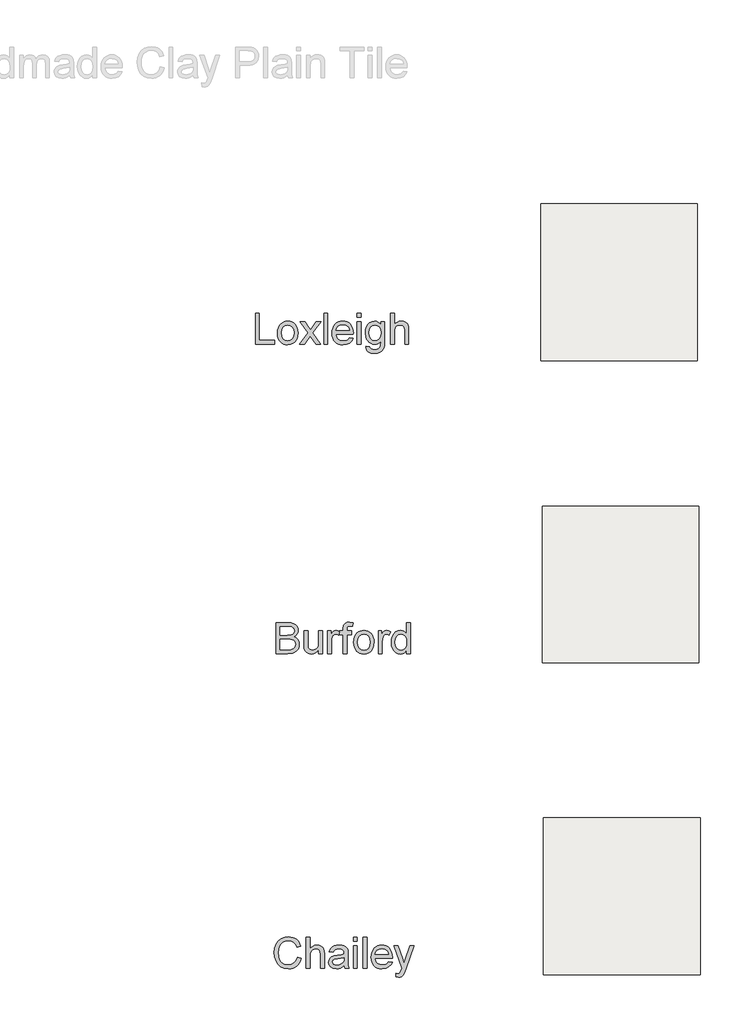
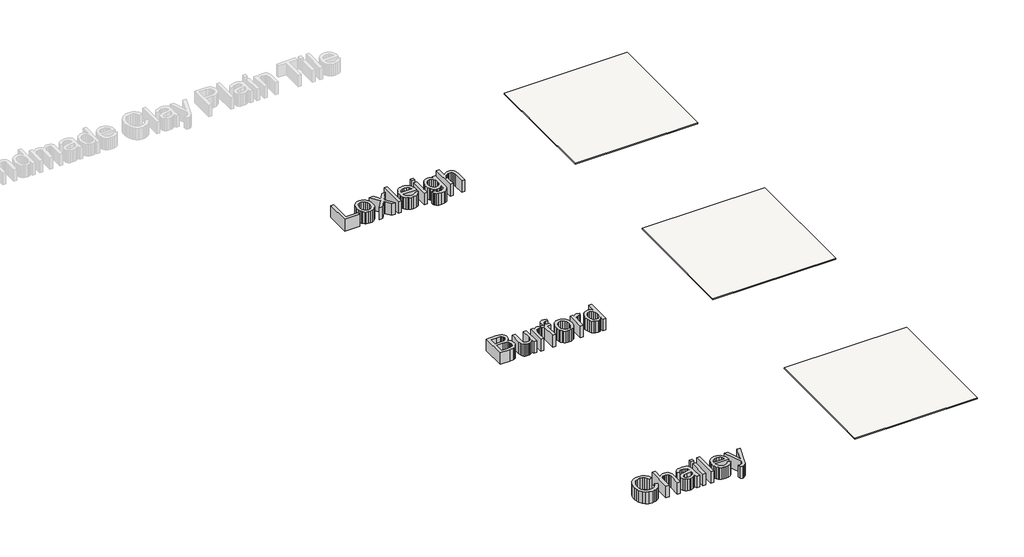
# One storey, part 1 of 3: 3 coverings, 3 proxies.
"""IFC4 building model written with IfcOpenShell, lengths in millimetres."""

import ifcopenshell
import ifcopenshell.guid

model = None  # the IFC model being written
_history = None  # IfcOwnerHistory: only IFC2X3 demands one
_inside = {}  # id of a spatial element -> (the spatial element, [elements in it])
_under = {}  # id of a project, library or spatial element -> (it, [spatial elements below it])
_declared = {}  # id of a project -> (the project, [libraries it declares])
_typed = {}  # id of a type object -> (the type object, [elements of that type])
_made_of = {}  # id of a material, layer set ... -> (it, [elements and type objects made of it])


def new_model(schema):
    """Start an empty IFC model of exactly this schema.

    Asked for "IFC4X3", IfcOpenShell would pick the latest addendum, in which some entities
    have other attributes; the version numbers below select the first issue.
    IFC2X3 requires an IfcOwnerHistory on every rooted entity: one is made here for all.
    """
    global model, _history
    if schema == "IFC4X3":
        model = ifcopenshell.file(schema_version=(4, 3, 0, 0))
    else:
        model = ifcopenshell.file(schema=schema)
    _inside.clear()
    _under.clear()
    _declared.clear()
    _typed.clear()
    _made_of.clear()
    _history = None
    if model.schema == "IFC2X3":
        org = make("IfcOrganization", Name="unknown")
        user = make(
            "IfcPersonAndOrganization",
            ThePerson=make("IfcPerson", FamilyName="unknown"),
            TheOrganization=org,
        )
        app = make(
            "IfcApplication",
            ApplicationDeveloper=org,
            Version="unknown",
            ApplicationFullName="unknown",
            ApplicationIdentifier="unknown",
        )
        _history = make(
            "IfcOwnerHistory",
            OwningUser=user,
            OwningApplication=app,
            ChangeAction="ADDED",
            CreationDate=0,
        )
    return model


def make(cls, **values):
    """One entity of the class cls with the attributes given. An attribute that is None is left unset."""
    return model.create_entity(
        cls, **{name: value for name, value in values.items() if value is not None}
    )


def rooted(cls, **values):
    """An entity with a GlobalId (a new one), such as an element, a storey or a relation."""
    return make(cls, GlobalId=ifcopenshell.guid.new(), OwnerHistory=_history, **values)


def si_unit(unit_type, name, prefix=None):
    """IfcSIUnit, for example si_unit("LENGTHUNIT", "METRE", prefix="MILLI")."""
    return make("IfcSIUnit", UnitType=unit_type, Prefix=prefix, Name=name)


def assignment(units):
    """IfcUnitAssignment: the units of a project."""
    return None if units is None else make("IfcUnitAssignment", Units=units)


def point(xyz):
    """IfcCartesianPoint."""
    return None if xyz is None else make("IfcCartesianPoint", Coordinates=xyz)


def direction(xyz):
    """IfcDirection."""
    return None if xyz is None else make("IfcDirection", DirectionRatios=xyz)


def frame(location, z_axis=None, x_axis=None):
    """IfcAxis2Placement3D, a coordinate frame: its origin and axes. An axis left out is left unset."""
    return make(
        "IfcAxis2Placement3D",
        Location=point(location),
        Axis=direction(z_axis),
        RefDirection=direction(x_axis),
    )


def origin():
    """The frame at (0, 0, 0) with its axes left unset."""
    return frame((0.0, 0.0, 0.0))


def place(relative_to, where):
    """IfcLocalPlacement: puts the frame where relative to a parent placement (None: the world)."""
    return make(
        "IfcLocalPlacement", PlacementRelTo=relative_to, RelativePlacement=where
    )


def context(
    kind, dimensions, precision=None, world=None, true_north=None, identifier=None
):
    """IfcGeometricRepresentationContext, for example the 3D "Model" context."""
    return make(
        "IfcGeometricRepresentationContext",
        ContextIdentifier=identifier,
        ContextType=kind,
        CoordinateSpaceDimension=dimensions,
        Precision=precision,
        WorldCoordinateSystem=world,
        TrueNorth=true_north,
    )


def project(units=None, contexts=None):
    """IfcProject with its units and contexts."""
    return rooted(
        "IfcProject",
        Name="project",
        RepresentationContexts=contexts,
        UnitsInContext=assignment(units),
    )


def spatial(cls, under=None, at=None, **own):
    """A site, building, storey or space (cls), placed at a placement, below another one or the project."""
    s = rooted(cls, ObjectPlacement=at, **own)
    if under is not None:
        _under.setdefault(under.id(), (under, []))[1].append(s)
    return s


def polyline(points):
    """IfcPolyline through the points."""
    return make("IfcPolyline", Points=[point(p) for p in points])


def outline(outer, holes=None, kind="AREA"):
    """IfcArbitraryClosedProfileDef: a profile drawn as a closed curve; with holes, ...WithVoids."""
    if holes is None:
        return make("IfcArbitraryClosedProfileDef", ProfileType=kind, OuterCurve=outer)
    return make(
        "IfcArbitraryProfileDefWithVoids",
        ProfileType=kind,
        OuterCurve=outer,
        InnerCurves=holes,
    )


def extrude(swept, where, along, depth):
    """IfcExtrudedAreaSolid: the profile swept, set in the frame where, extruded along a direction by depth."""
    return make(
        "IfcExtrudedAreaSolid",
        SweptArea=swept,
        Position=where,
        ExtrudedDirection=direction(along),
        Depth=depth,
    )


def shape(context_of_items, identifier, shape_type, items):
    """IfcShapeRepresentation: the items that make up one representation, for example the "Body"."""
    return make(
        "IfcShapeRepresentation",
        ContextOfItems=context_of_items,
        RepresentationIdentifier=identifier,
        RepresentationType=shape_type,
        Items=items,
    )


def made_of(thing, what):
    """Note that an element or type object is made of a material, layer set ...; save() writes the relation."""
    if what is not None:
        _made_of.setdefault(what.id(), (what, []))[1].append(thing)
    return thing


def element(
    cls,
    number,
    at=None,
    inside=None,
    cuts=None,
    type_object=None,
    material=None,
    context=None,
    identifier="Body",
    shape_type=None,
    held_by="IfcProductDefinitionShape",
    body=None,
    shapes=None,
    **own,
):
    """One element of the class cls, such as IfcWall. Its Tag is "e" and its number.

    at: its placement. inside: the storey or other place that contains it. cuts: it is an
    opening in that element (IfcRelVoidsElement). A single representation is given by context,
    identifier, shape_type and body (its items); several are given by shapes. held_by: the class
    of the entity that holds the representations. save() writes the other relations.
    """
    e = rooted(cls, Tag="e%d" % number, ObjectPlacement=at, **own)
    if body is not None:
        shapes = [shape(context, identifier, shape_type, body)]
    if shapes is not None:
        e.Representation = make(held_by, Representations=shapes)
    if inside is not None:
        _inside.setdefault(inside.id(), (inside, []))[1].append(e)
    if cuts is not None:
        rooted(
            "IfcRelVoidsElement", RelatingBuildingElement=cuts, RelatedOpeningElement=e
        )
    if type_object is not None:
        _typed.setdefault(type_object.id(), (type_object, []))[1].append(e)
    return made_of(e, material)


def aggregate(whole, parts):
    """IfcRelAggregates: a whole, such as a stair, and the parts it consists of."""
    return rooted("IfcRelAggregates", RelatingObject=whole, RelatedObjects=parts)


def save(model, path):
    """Write the relations noted so far, then the file.

    IfcRelAggregates (storeys below a building ...), IfcRelContainedInSpatialStructure (elements
    in a storey), IfcRelDefinesByType, IfcRelAssociatesMaterial and IfcRelDeclares: one each for
    every whole, place, type object, material and project.
    """
    for whole, parts in _under.values():
        aggregate(whole, parts)
    for where, things in _inside.values():
        rooted(
            "IfcRelContainedInSpatialStructure",
            RelatedElements=things,
            RelatingStructure=where,
        )
    for kind, things in _typed.values():
        rooted("IfcRelDefinesByType", RelatedObjects=things, RelatingType=kind)
    for what, things in _made_of.values():
        rooted("IfcRelAssociatesMaterial", RelatedObjects=things, RelatingMaterial=what)
    for by, libraries in _declared.values():
        rooted("IfcRelDeclares", RelatingContext=by, RelatedDefinitions=libraries)
    model.write(path)


model = new_model("IFC4")

# Units and contexts
model_context = context("Model", 3, world=origin())
ifc_project = project(units=[si_unit("LENGTHUNIT", "METRE", prefix="MILLI")], contexts=[model_context])

# Site, building, storey
site = spatial("IfcSite", under=ifc_project)
building = spatial("IfcBuilding", under=site)
storey = spatial("IfcBuildingStorey", under=building, Name="Marley Clay Plain Tile", Elevation=3000.0)

# Proxies
placement = place(None, origin())
element("IfcBuildingElementProxy", 1, Name="600mm Arial", ObjectType="600mm Arial", at=placement, inside=storey, context=model_context, shape_type="SweptSolid", body=[
    extrude(outline(polyline([(-13375.9050544, 48.5662528), (-13375.9050544, 343.9508682), (-13263.1887083, 343.9508682), (-13232.1881073, 341.7783922), (-13207.9843813, 335.2609643), (-13189.4326986, 324.2363249), (-13175.3882275, 308.5422143), (-13166.5450785, 290.0806759), (-13163.5973621, 270.7537528), (-13166.0763285, 252.9682961), (-13173.5132275, 236.2465413), (-13185.9621458, 221.6161326), (-13203.4771698, 210.1047143), (-13182.5546938, 199.1792336), (-13167.0949583, 182.5566374), (-13157.5486842, 161.3366855), (-13154.3665929, 136.6191374), (-13156.5390688, 116.0211807), (-13163.0564967, 96.9196182), (-13172.7830592, 80.6756278), (-13184.582939, 68.6503874), (-13199.0330592, 59.9424547), (-13216.7103429, 53.6503874), (-13264.0540929, 48.5662528), (-13375.9050544, 48.5662528)]), holes=[polyline([(-13338.9819775, 85.4893297), (-13263.2608236, 85.4893297), (-13235.8569775, 86.9316374), (-13212.6718813, 94.9725028), (-13197.3113044, 111.3787528), (-13192.7950785, 122.9713009), (-13191.2896698, 136.2585605), (-13193.0564967, 151.6912528), (-13198.3569775, 164.9604836), (-13207.61479, 175.3360845), (-13221.2536121, 182.0878874), (-13240.5715208, 185.7928153), (-13266.8665929, 187.0277913), (-13338.9819775, 187.0277913), (-13338.9819775, 85.4893297)]), polyline([(-13338.9819775, 223.9508682), (-13271.5540929, 223.9508682), (-13232.1790929, 227.1239451), (-13218.39604, 232.5956999), (-13208.489189, 240.7898105), (-13202.5126265, 251.5800749), (-13200.520439, 264.8402913), (-13202.3774102, 277.7128874), (-13207.9483236, 288.9268297), (-13216.9807756, 297.6798345), (-13229.2223621, 303.1696182), (-13276.6742852, 307.0277913), (-13338.9819775, 307.0277913), (-13338.9819775, 223.9508682)])]), frame((0.0, 0.0, 3000.0), z_axis=(0.0, 0.0, 1.0), x_axis=(1.0, 0.0, 0.0)), (0.0, 0.0, 1.0), 150.0),
    extrude(outline(polyline([(-12969.7512083, 48.5662528), (-12969.7512083, 85.8499066), (-12983.1105833, 67.5190773), (-12998.6694775, 54.4256278), (-13016.427891, 46.5695581), (-13036.3858236, 43.9508682), (-13054.3695977, 45.7898105), (-13071.1093813, 51.3066374), (-13085.1538525, 59.5999066), (-13095.051689, 69.7681759), (-13106.0492852, 96.9556759), (-13108.2127467, 131.282599), (-13108.2127467, 265.4893297), (-13071.2896698, 265.4893297), (-13071.2896698, 148.6624066), (-13069.0540929, 111.0181759), (-13063.6724823, 98.4610845), (-13054.4507275, 88.9148105), (-13042.0018092, 82.8841615), (-13026.9387083, 80.8739451), (-13011.0102227, 82.9292336), (-12996.1093813, 89.095099), (-12983.8227227, 98.8036326), (-12975.7367852, 111.4869259), (-12971.2476025, 128.8577191), (-12969.7512083, 152.6287528), (-12969.7512083, 265.4893297), (-12932.8281313, 265.4893297), (-12932.8281313, 48.5662528), (-12969.7512083, 48.5662528)])), frame((0.0, 0.0, 3000.0), z_axis=(0.0, 0.0, 1.0), x_axis=(1.0, 0.0, 0.0)), (0.0, 0.0, 1.0), 150.0),
    extrude(outline(polyline([(-12882.0589006, 48.5662528), (-12882.0589006, 265.4893297), (-12849.7512083, 265.4893297), (-12849.7512083, 233.3979836), (-12837.8161121, 252.0037528), (-12826.818516, 262.9652913), (-12815.7848621, 268.3198586), (-12803.7415929, 270.1047143), (-12785.3521698, 267.2561566), (-12766.6742852, 258.7104836), (-12779.006016, 225.609522), (-12791.9867852, 231.2886086), (-12804.9675544, 233.1816374), (-12815.9921938, 231.360724), (-12825.8449583, 225.8979836), (-12833.8046938, 217.2080797), (-12839.1502467, 205.7056759), (-12843.6394294, 185.0806759), (-12845.1358236, 162.5806759), (-12845.1358236, 48.5662528), (-12882.0589006, 48.5662528)])), frame((0.0, 0.0, 3000.0), z_axis=(0.0, 0.0, 1.0), x_axis=(1.0, 0.0, 0.0)), (0.0, 0.0, 1.0), 150.0),
    extrude(outline(polyline([(-12734.3665929, 48.5662528), (-12734.3665929, 228.5662528), (-12766.6742852, 228.5662528), (-12766.6742852, 265.4893297), (-12734.3665929, 265.4893297), (-12734.3665929, 287.3402913), (-12730.4723621, 318.1335605), (-12723.0444775, 330.4112047), (-12711.5781313, 340.1287528), (-12695.5324583, 346.4568778), (-12674.3665929, 348.5662528), (-12640.6887083, 344.5277913), (-12646.0973621, 309.9124066), (-12667.3714006, 311.6431759), (-12681.4068573, 310.110724), (-12690.6286121, 305.5133682), (-12695.73979, 296.7333201), (-12697.443516, 282.6527913), (-12697.443516, 265.4893297), (-12655.9050544, 265.4893297), (-12655.9050544, 228.5662528), (-12697.443516, 228.5662528), (-12697.443516, 48.5662528), (-12734.3665929, 48.5662528)])), frame((0.0, 0.0, 3000.0), z_axis=(0.0, 0.0, 1.0), x_axis=(1.0, 0.0, 0.0)), (0.0, 0.0, 1.0), 150.0),
    extrude(outline(polyline([(-12632.8281313, 157.0277913), (-12630.8314366, 185.1212408), (-12624.8413525, 209.329474), (-12614.8578789, 229.6524908), (-12600.881016, 246.0902913), (-12586.8095015, 256.5966014), (-12571.2776506, 264.1011086), (-12554.2854631, 268.6038129), (-12535.832939, 270.1047143), (-12515.4625965, 268.2770401), (-12497.0438765, 262.7940172), (-12480.5767792, 253.6556458), (-12466.0613044, 240.8619259), (-12454.2140989, 224.8455497), (-12445.7518092, 206.0392095), (-12440.6744354, 184.4429054), (-12438.9819775, 160.0566374), (-12441.974766, 122.7549547), (-12450.9531313, 94.359522), (-12465.6556554, 73.094498), (-12485.8209198, 57.1840413), (-12509.7722419, 47.2591615), (-12535.832939, 43.9508682), (-12556.5007575, 45.7717816), (-12575.0907515, 51.234522), (-12591.602921, 60.3390893), (-12606.037266, 73.0854836), (-12617.7582696, 89.2573586), (-12626.130415, 108.6383682), (-12631.1537022, 131.2285124), (-12632.8281313, 157.0277913)]), holes=[polyline([(-12595.9050544, 157.0999066), (-12591.6322179, 123.6834403), (-12578.8137083, 99.876349), (-12559.5228429, 85.6245461), (-12535.832939, 80.8739451), (-12512.2512083, 85.6515893), (-12492.9964006, 99.984522), (-12480.177891, 124.1071182), (-12475.9050544, 158.2537528), (-12480.2049342, 190.6966615), (-12493.1045736, 214.1792336), (-12512.3864246, 228.4310365), (-12535.832939, 233.1816374), (-12559.5228429, 228.4490653), (-12578.8137083, 214.251349), (-12591.6322179, 190.4983441), (-12595.9050544, 157.0999066)])]), frame((0.0, 0.0, 3000.0), z_axis=(0.0, 0.0, 1.0), x_axis=(1.0, 0.0, 0.0)), (0.0, 0.0, 1.0), 150.0),
    extrude(outline(polyline([(-12397.443516, 48.5662528), (-12397.443516, 265.4893297), (-12365.1358236, 265.4893297), (-12365.1358236, 233.3979836), (-12353.2007275, 252.0037528), (-12342.2031313, 262.9652913), (-12331.1694775, 268.3198586), (-12319.1262083, 270.1047143), (-12300.7367852, 267.2561566), (-12282.0589006, 258.7104836), (-12294.3906313, 225.609522), (-12307.3714006, 231.2886086), (-12320.3521698, 233.1816374), (-12331.3768092, 231.360724), (-12341.2295736, 225.8979836), (-12349.1893092, 217.2080797), (-12354.5348621, 205.7056759), (-12359.0240448, 185.0806759), (-12360.520439, 162.5806759), (-12360.520439, 48.5662528), (-12397.443516, 48.5662528)])), frame((0.0, 0.0, 3000.0), z_axis=(0.0, 0.0, 1.0), x_axis=(1.0, 0.0, 0.0)), (0.0, 0.0, 1.0), 150.0),
    extrude(outline(polyline([(-12125.1358236, 48.5662528), (-12125.1358236, 83.3979836), (-12136.1829991, 66.1398706), (-12149.5649102, 53.812647), (-12165.2815568, 46.4163129), (-12183.332939, 43.9508682), (-12207.2031313, 47.5205797), (-12229.0540929, 58.2297143), (-12247.551689, 75.3300749), (-12261.3617852, 98.0734643), (-12269.9615448, 125.5404115), (-12272.8281313, 156.8114451), (-12270.1869054, 187.6948586), (-12262.2632275, 215.5854836), (-12249.0661121, 238.8967816), (-12230.6045736, 256.0422143), (-12208.2758477, 266.5890893), (-12183.4771698, 270.1047143), (-12165.412266, 267.5896903), (-12149.4387083, 260.0446182), (-12135.8990448, 248.4791134), (-12125.1358236, 233.9027913), (-12125.1358236, 343.9508682), (-12088.2127467, 343.9508682), (-12088.2127467, 48.5662528), (-12125.1358236, 48.5662528)]), holes=[polyline([(-12235.9050544, 156.9556759), (-12231.740391, 123.5572384), (-12219.2464006, 99.8042336), (-12201.0913525, 85.6065172), (-12179.943516, 80.8739451), (-12158.8046938, 85.3901711), (-12141.1093813, 98.938849), (-12129.1292131, 121.7723826), (-12125.1358236, 154.1431759), (-12129.2013285, 189.5338009), (-12141.3978429, 214.0710605), (-12159.5438765, 228.4039932), (-12181.457939, 233.1816374), (-12202.8221217, 228.5932961), (-12220.3281313, 214.828272), (-12232.0108236, 191.1834403), (-12235.9050544, 156.9556759)])]), frame((0.0, 0.0, 3000.0), z_axis=(0.0, 0.0, 1.0), x_axis=(1.0, 0.0, 0.0)), (0.0, 0.0, 1.0), 150.0),
])
element("IfcBuildingElementProxy", 2, Name="600mm Arial", ObjectType="600mm Arial", at=placement, inside=storey, context=model_context, shape_type="SweptSolid", body=[
    extrude(outline(polyline([(-13171.7794103, -2857.4153802), (-13134.8563334, -2866.934611), (-13142.1625233, -2889.8966001), (-13151.893593, -2909.9604523), (-13164.0495425, -2927.1261674), (-13178.6303718, -2941.3937456), (-13195.3070545, -2952.6099415), (-13213.7505642, -2960.62151), (-13233.9609007, -2965.4284511), (-13255.9380642, -2967.0307648), (-13298.7655882, -2962.1810052), (-13332.7770065, -2947.6317263), (-13358.846718, -2923.887736), (-13377.8491218, -2891.4538417), (-13389.4506843, -2853.3228321), (-13393.3178718, -2812.4874956), (-13388.9458767, -2769.4165821), (-13375.8298911, -2732.2230725), (-13354.6550113, -2702.0878561), (-13326.1063334, -2680.1918225), (-13292.2481603, -2666.8594908), (-13255.1447949, -2662.4153802), (-13214.6610209, -2668.1665821), (-13197.0490918, -2675.3555845), (-13181.190468, -2685.4201879), (-13167.3465678, -2698.0944667), (-13155.7788093, -2713.1124956), (-13139.471718, -2750.1798033), (-13176.3947949, -2758.9778802), (-13189.1952757, -2732.0517985), (-13206.6832565, -2713.5812456), (-13229.0750834, -2702.8991542), (-13256.5871026, -2699.3384571), (-13288.299843, -2703.2867744), (-13314.3515257, -2715.1317263), (-13334.1201555, -2733.6293225), (-13346.9837372, -2757.5355725), (-13354.0420305, -2784.5608129), (-13356.3947949, -2812.4153802), (-13353.6093382, -2846.5259571), (-13345.252968, -2876.0211494), (-13331.0101795, -2899.7741542), (-13310.565468, -2916.6581686), (-13286.0552517, -2926.7453081), (-13259.6159488, -2930.1076879), (-13228.7956363, -2925.528361), (-13203.1135449, -2911.7903802), (-13183.7235209, -2889.0379763), (-13171.7794103, -2857.4153802)])), frame((0.0, 0.0, 3000.0), z_axis=(0.0, 0.0, 1.0), x_axis=(1.0, 0.0, 0.0)), (0.0, 0.0, 1.0), 150.0),
    extrude(outline(polyline([(-13088.7024872, -2962.4153802), (-13088.7024872, -2667.0307648), (-13051.7794103, -2667.0307648), (-13051.7794103, -2775.636534), (-13038.2172108, -2760.4292023), (-13022.987343, -2749.5668225), (-13006.0898069, -2743.0493946), (-12987.5246026, -2740.8769186), (-12965.2229199, -2743.2477119), (-12946.0582565, -2750.3600917), (-12930.9681122, -2761.6551638), (-12920.8899872, -2776.574034), (-12915.2109007, -2797.0728321), (-12913.3178718, -2825.1076879), (-12913.3178718, -2962.4153802), (-12950.2409488, -2962.4153802), (-12950.2409488, -2828.9298033), (-12953.1796507, -2805.8168225), (-12961.9957565, -2789.9874956), (-12976.2024872, -2780.8468706), (-12995.3130642, -2777.7999956), (-13010.9170305, -2779.855284), (-13025.565468, -2786.0211494), (-13037.6988815, -2795.7026398), (-13045.7577757, -2808.3048033), (-13050.2740017, -2825.0536013), (-13051.7794103, -2847.1749956), (-13051.7794103, -2962.4153802), (-13088.7024872, -2962.4153802)])), frame((0.0, 0.0, 3000.0), z_axis=(0.0, 0.0, 1.0), x_axis=(1.0, 0.0, 0.0)), (0.0, 0.0, 1.0), 150.0),
    extrude(outline(polyline([(-12724.0871026, -2934.7230725), (-12741.7283286, -2949.8492744), (-12759.8923911, -2959.747111), (-12778.9939536, -2965.2098513), (-12799.4476795, -2967.0307648), (-12830.3040497, -2962.6497552), (-12853.065468, -2949.5067263), (-12867.1009247, -2929.5487936), (-12871.7794103, -2904.7230725), (-12870.0125834, -2889.4165821), (-12864.7121026, -2875.5163417), (-12856.5360209, -2863.6173033), (-12846.1423911, -2854.3144186), (-12820.2890257, -2842.199034), (-12788.3419103, -2836.6461494), (-12750.5895065, -2830.8048033), (-12724.3034488, -2823.9538417), (-12724.0871026, -2815.7326879), (-12726.6291699, -2799.2543225), (-12734.2553718, -2788.4730725), (-12751.3106603, -2780.4682648), (-12775.0726795, -2777.7999956), (-12797.0678718, -2779.5758369), (-12812.4284488, -2784.903361), (-12822.9032084, -2794.7561254), (-12830.2409488, -2810.1076879), (-12867.1640257, -2805.4923033), (-12860.7547709, -2785.2999956), (-12851.190468, -2769.434611), (-12837.5786892, -2757.3011975), (-12819.0270065, -2748.3048033), (-12796.3377036, -2742.7338898), (-12770.3130642, -2740.8769186), (-12745.3521267, -2742.5175436), (-12725.565468, -2747.4394186), (-12710.6465978, -2754.84026), (-12700.2890257, -2763.917784), (-12693.4200353, -2775.1407408), (-12688.9669103, -2788.9778802), (-12687.1640257, -2821.2855725), (-12687.1640257, -2867.2230725), (-12685.2890257, -2931.3697071), (-12677.9332565, -2962.4153802), (-12714.8563334, -2962.4153802), (-12724.0871026, -2934.7230725)]), holes=[polyline([(-12724.0871026, -2860.8769186), (-12783.6544103, -2872.199034), (-12815.4212372, -2878.184611), (-12829.8082565, -2887.9201879), (-12834.8563334, -2902.1269186), (-12832.1069343, -2913.106486), (-12823.8587372, -2922.1028802), (-12810.2920305, -2928.106486), (-12791.5871026, -2930.1076879), (-12771.7553718, -2927.8991542), (-12754.2313334, -2921.2735533), (-12740.0246026, -2911.5109331), (-12730.1447949, -2899.8913417), (-12725.7637853, -2887.9201879), (-12724.3034488, -2871.3336494), (-12724.0871026, -2860.8769186)])]), frame((0.0, 0.0, 3000.0), z_axis=(0.0, 0.0, 1.0), x_axis=(1.0, 0.0, 0.0)), (0.0, 0.0, 1.0), 150.0),
    extrude(outline(polyline([(-12636.3947949, -2703.9538417), (-12636.3947949, -2667.0307648), (-12599.471718, -2667.0307648), (-12599.471718, -2703.9538417), (-12636.3947949, -2703.9538417)])), frame((0.0, 0.0, 3000.0), z_axis=(0.0, 0.0, 1.0), x_axis=(1.0, 0.0, 0.0)), (0.0, 0.0, 1.0), 150.0),
    extrude(outline(polyline([(-12636.3947949, -2962.4153802), (-12636.3947949, -2745.4923033), (-12599.471718, -2745.4923033), (-12599.471718, -2962.4153802), (-12636.3947949, -2962.4153802)])), frame((0.0, 0.0, 3000.0), z_axis=(0.0, 0.0, 1.0), x_axis=(1.0, 0.0, 0.0)), (0.0, 0.0, 1.0), 150.0),
    extrude(outline(polyline([(-12544.0871026, -2962.4153802), (-12544.0871026, -2667.0307648), (-12507.1640257, -2667.0307648), (-12507.1640257, -2962.4153802), (-12544.0871026, -2962.4153802)])), frame((0.0, 0.0, 3000.0), z_axis=(0.0, 0.0, 1.0), x_axis=(1.0, 0.0, 0.0)), (0.0, 0.0, 1.0), 150.0),
    extrude(outline(polyline([(-12299.9044103, -2897.7999956), (-12263.7024872, -2902.4153802), (-12276.7463574, -2929.6930244), (-12297.5606603, -2950.0836494), (-12325.6766459, -2962.793986), (-12360.6255642, -2967.0307648), (-12383.5357204, -2965.2030905), (-12403.9488815, -2959.7200677), (-12421.8650473, -2950.5816963), (-12437.284218, -2937.7879763), (-12449.6835569, -2921.6949775), (-12458.5402276, -2902.6587696), (-12463.85423, -2880.6793525), (-12465.6255642, -2855.7567263), (-12463.8362012, -2829.988998), (-12458.4681122, -2807.277159), (-12449.5212973, -2787.6212095), (-12436.9957565, -2771.0211494), (-12421.6171507, -2757.8330485), (-12404.1111411, -2748.4129763), (-12384.4777276, -2742.7609331), (-12362.7169103, -2740.8769186), (-12341.6569644, -2742.7564259), (-12322.611742, -2748.3949475), (-12305.5812432, -2757.7924835), (-12290.565468, -2770.949034), (-12278.3081062, -2787.5130364), (-12269.5528478, -2807.1329283), (-12264.2996928, -2829.8087095), (-12262.5486411, -2855.5403802), (-12262.7649872, -2865.4923033), (-12428.7024872, -2865.4923033), (-12422.3112613, -2893.1305244), (-12407.4645065, -2913.449034), (-12386.0372228, -2925.9430244), (-12359.9044103, -2930.1076879), (-12340.252968, -2928.1786013), (-12323.7024872, -2922.3913417), (-12310.252968, -2912.3853321), (-12299.9044103, -2897.7999956)]), holes=[polyline([(-12428.7024872, -2828.5692263), (-12299.471718, -2828.5692263), (-12304.4657084, -2809.0620148), (-12314.2553718, -2795.1076879), (-12335.7818142, -2782.1269186), (-12362.8611411, -2777.7999956), (-12387.7499632, -2781.2525196), (-12408.3298911, -2791.6100917), (-12422.6357805, -2807.7549235), (-12428.7024872, -2828.5692263)])]), frame((0.0, 0.0, 3000.0), z_axis=(0.0, 0.0, 1.0), x_axis=(1.0, 0.0, 0.0)), (0.0, 0.0, 1.0), 150.0),
    extrude(outline(polyline([(-12225.6255642, -3045.4923033), (-12230.2409488, -3009.9394186), (-12211.4909488, -3013.184611), (-12193.9669103, -3009.1100917), (-12183.221718, -2997.7519186), (-12173.1255642, -2970.5644186), (-12170.2409488, -2961.622111), (-12248.7024872, -2745.4923033), (-12209.7601795, -2745.4923033), (-12168.1496026, -2865.9249956), (-12153.6544103, -2914.0980725), (-12139.159218, -2871.5499956), (-12096.3947949, -2745.4923033), (-12057.7409488, -2745.4923033), (-12133.2457565, -2967.6076879), (-12152.8611411, -3015.7807648), (-12162.9032084, -3031.1593706), (-12174.2794103, -3041.8144186), (-12187.4945545, -3048.0343706), (-12203.0534488, -3050.1076879), (-12225.6255642, -3045.4923033)])), frame((0.0, 0.0, 3000.0), z_axis=(0.0, 0.0, 1.0), x_axis=(1.0, 0.0, 0.0)), (0.0, 0.0, 1.0), 150.0),
])
element("IfcBuildingElementProxy", 3, Name="600mm Arial", ObjectType="600mm Arial", at=placement, inside=storey, context=model_context, shape_type="SweptSolid", body=[
    extrude(outline(polyline([(-13573.7803585, 3007.26644), (-13573.7803585, 3302.6510554), (-13536.8572816, 3302.6510554), (-13536.8572816, 3044.189517), (-13389.1649739, 3044.189517), (-13389.1649739, 3007.26644), (-13573.7803585, 3007.26644)])), frame((0.0, 0.0, 3000.0), z_axis=(0.0, 0.0, 1.0), x_axis=(1.0, 0.0, 0.0)), (0.0, 0.0, 1.0), 150.0),
    extrude(outline(polyline([(-13361.4726662, 3115.7279785), (-13359.4759715, 3143.821428), (-13353.4858873, 3168.0296612), (-13343.5024138, 3188.352678), (-13329.5255508, 3204.7904785), (-13315.4540364, 3215.2967886), (-13299.9221854, 3222.8012958), (-13282.9299979, 3227.3040001), (-13264.4774739, 3228.8049016), (-13244.1071313, 3226.9772273), (-13225.6884114, 3221.4942045), (-13209.221314, 3212.3558331), (-13194.7058393, 3199.5621131), (-13182.8586337, 3183.5457369), (-13174.3963441, 3164.7393968), (-13169.3189703, 3143.1430927), (-13167.6265123, 3118.7568247), (-13170.6193008, 3081.455142), (-13179.5976662, 3053.0597093), (-13194.3001902, 3031.7946852), (-13214.4654547, 3015.8842285), (-13238.4167768, 3005.9593487), (-13264.4774739, 3002.6510554), (-13285.1452924, 3004.4719689), (-13303.7352864, 3009.9347093), (-13320.2474559, 3019.0392766), (-13334.6818008, 3031.7856708), (-13346.4028044, 3047.9575458), (-13354.7749498, 3067.3385554), (-13359.7982371, 3089.9286997), (-13361.4726662, 3115.7279785)]), holes=[polyline([(-13324.5495893, 3115.8000939), (-13320.2767527, 3082.3836275), (-13307.4582431, 3058.5765362), (-13288.1673777, 3044.3247333), (-13264.4774739, 3039.5741324), (-13240.8957431, 3044.3517766), (-13221.6409354, 3058.6847093), (-13208.8224258, 3082.8073054), (-13204.5495893, 3116.95394), (-13208.8494691, 3149.3968487), (-13221.7491085, 3172.8794208), (-13241.0309595, 3187.1312237), (-13264.4774739, 3191.8818247), (-13288.1673777, 3187.1492525), (-13307.4582431, 3172.9515362), (-13320.2767527, 3149.1985314), (-13324.5495893, 3115.8000939)])]), frame((0.0, 0.0, 3000.0), z_axis=(0.0, 0.0, 1.0), x_axis=(1.0, 0.0, 0.0)), (0.0, 0.0, 1.0), 150.0),
    extrude(outline(polyline([(-13149.1649739, 3007.26644), (-13070.2707431, 3116.3049016), (-13144.5495893, 3224.189517), (-13100.1265123, 3224.189517), (-13064.2851662, 3172.26644), (-13047.554397, 3147.7472093), (-13033.0592047, 3167.7952862), (-12992.241897, 3224.189517), (-12947.81882, 3224.189517), (-13025.8476662, 3116.3049016), (-12950.7034354, 3007.26644), (-12995.1265123, 3007.26644), (-13040.3428585, 3072.8193247), (-13048.6361277, 3084.7904785), (-13104.741897, 3007.26644), (-13149.1649739, 3007.26644)])), frame((0.0, 0.0, 3000.0), z_axis=(0.0, 0.0, 1.0), x_axis=(1.0, 0.0, 0.0)), (0.0, 0.0, 1.0), 150.0),
    extrude(outline(polyline([(-12918.3957431, 3007.26644), (-12918.3957431, 3302.6510554), (-12881.4726662, 3302.6510554), (-12881.4726662, 3007.26644), (-12918.3957431, 3007.26644)])), frame((0.0, 0.0, 3000.0), z_axis=(0.0, 0.0, 1.0), x_axis=(1.0, 0.0, 0.0)), (0.0, 0.0, 1.0), 150.0),
    extrude(outline(polyline([(-12674.2130508, 3071.8818247), (-12638.0111277, 3067.26644), (-12651.0549979, 3039.9887958), (-12671.8693008, 3019.5981708), (-12699.9852864, 3006.8878343), (-12734.9342047, 3002.6510554), (-12757.8443609, 3004.4787297), (-12778.257522, 3009.9617525), (-12796.1736878, 3019.1001239), (-12811.5928585, 3031.8938439), (-12823.9921974, 3047.9868427), (-12832.8488681, 3067.0230506), (-12838.1628705, 3089.0024677), (-12839.9342047, 3113.9250939), (-12838.1448417, 3139.6928223), (-12832.7767527, 3162.4046612), (-12823.8299378, 3182.0606107), (-12811.304397, 3198.6606708), (-12795.9257912, 3211.8487718), (-12778.4197816, 3221.2688439), (-12758.7863681, 3226.9208872), (-12737.0255508, 3228.8049016), (-12715.9656049, 3226.9253944), (-12696.9203825, 3221.2868727), (-12679.8898837, 3211.8893367), (-12664.8741085, 3198.7327862), (-12652.6167467, 3182.1687838), (-12643.8614883, 3162.548892), (-12638.6083333, 3139.8731107), (-12636.8572816, 3114.14144), (-12637.0736277, 3104.189517), (-12803.0111277, 3104.189517), (-12796.6199018, 3076.5512958), (-12781.773147, 3056.2327862), (-12760.3458633, 3043.7387958), (-12734.2130508, 3039.5741324), (-12714.5616085, 3041.5032189), (-12698.0111277, 3047.2904785), (-12684.5616085, 3057.2964881), (-12674.2130508, 3071.8818247)]), holes=[polyline([(-12803.0111277, 3141.1125939), (-12673.7803585, 3141.1125939), (-12678.7743489, 3160.6198054), (-12688.5640123, 3174.5741324), (-12710.0904547, 3187.5549016), (-12737.1697816, 3191.8818247), (-12762.0586037, 3188.4293006), (-12782.6385316, 3178.0717285), (-12796.944421, 3161.9268968), (-12803.0111277, 3141.1125939)])]), frame((0.0, 0.0, 3000.0), z_axis=(0.0, 0.0, 1.0), x_axis=(1.0, 0.0, 0.0)), (0.0, 0.0, 1.0), 150.0),
    extrude(outline(polyline([(-12599.9342047, 3265.7279785), (-12599.9342047, 3302.6510554), (-12563.0111277, 3302.6510554), (-12563.0111277, 3265.7279785), (-12599.9342047, 3265.7279785)])), frame((0.0, 0.0, 3000.0), z_axis=(0.0, 0.0, 1.0), x_axis=(1.0, 0.0, 0.0)), (0.0, 0.0, 1.0), 150.0),
    extrude(outline(polyline([(-12599.9342047, 3007.26644), (-12599.9342047, 3224.189517), (-12563.0111277, 3224.189517), (-12563.0111277, 3007.26644), (-12599.9342047, 3007.26644)])), frame((0.0, 0.0, 3000.0), z_axis=(0.0, 0.0, 1.0), x_axis=(1.0, 0.0, 0.0)), (0.0, 0.0, 1.0), 150.0),
    extrude(outline(polyline([(-12516.8572816, 2988.8049016), (-12479.9342047, 2984.189517), (-12475.8596854, 2972.6510554), (-12467.9630508, 2964.7183631), (-12452.4402143, 2958.5524977), (-12432.1217047, 2956.4972093), (-12410.4510316, 2958.8229304), (-12394.3332431, 2965.8000939), (-12383.1553585, 2976.9779785), (-12376.304397, 2991.9058631), (-12373.7803585, 3034.9587477), (-12386.0670172, 3022.8433631), (-12399.7779547, 3014.189517), (-12414.913171, 3008.9972093), (-12431.4726662, 3007.26644), (-12451.7168068, 3009.2811636), (-12469.5405748, 3015.3253343), (-12484.9439703, 3025.3989521), (-12497.9269931, 3039.502017), (-12508.2282251, 3056.4220891), (-12515.5862479, 3074.9467285), (-12521.4726662, 3116.8097093), (-12518.8314402, 3146.6204064), (-12510.9077623, 3174.033267), (-12497.9810797, 3197.2634352), (-12480.3308393, 3214.5260554), (-12458.5610075, 3225.23519), (-12433.2755508, 3228.8049016), (-12416.0084234, 3226.7856708), (-12400.3368489, 3220.7279785), (-12386.2608272, 3210.6318247), (-12373.7803585, 3196.4972093), (-12373.7803585, 3224.189517), (-12336.8572816, 3224.189517), (-12336.8572816, 3036.9058631), (-12339.38132, 2993.6636756), (-12346.9534354, 2965.1871131), (-12359.9973056, 2946.3018968), (-12378.9366085, 2931.8337477), (-12403.3566806, 2922.6390362), (-12432.8428585, 2919.5741324), (-12467.1968248, 2923.892041), (-12494.2491085, 2936.845767), (-12504.4376602, 2946.5700759), (-12511.6018729, 2958.4713679), (-12515.7417467, 2972.5496432), (-12516.8572816, 2988.8049016)]), holes=[polyline([(-12484.5495893, 3119.3337477), (-12480.6102864, 3085.4665602), (-12468.7923777, 3062.1823054), (-12451.0249498, 3048.6877141), (-12429.2370893, 3044.189517), (-12407.6114883, 3048.6606708), (-12389.7539162, 3062.0741324), (-12377.7737479, 3085.0609112), (-12373.7803585, 3118.252017), (-12377.8909354, 3150.2622333), (-12390.2226662, 3173.3121131), (-12408.3416566, 3187.2393968), (-12429.8140123, 3191.8818247), (-12450.8987479, 3187.3115122), (-12468.5760316, 3173.6005747), (-12480.5561998, 3150.8932429), (-12484.5495893, 3119.3337477)])]), frame((0.0, 0.0, 3000.0), z_axis=(0.0, 0.0, 1.0), x_axis=(1.0, 0.0, 0.0)), (0.0, 0.0, 1.0), 150.0),
    extrude(outline(polyline([(-12281.4726662, 3007.26644), (-12281.4726662, 3302.6510554), (-12244.5495893, 3302.6510554), (-12244.5495893, 3194.0452862), (-12230.9873897, 3209.2526179), (-12215.757522, 3220.1149977), (-12198.8599859, 3226.6324256), (-12180.2947816, 3228.8049016), (-12157.9930989, 3226.4341083), (-12138.8284354, 3219.3217285), (-12123.7382912, 3208.0266564), (-12113.6601662, 3193.1077862), (-12107.9810797, 3172.6089881), (-12106.0880508, 3144.5741324), (-12106.0880508, 3007.26644), (-12143.0111277, 3007.26644), (-12143.0111277, 3140.752017), (-12145.9498297, 3163.8649977), (-12154.7659354, 3179.6943247), (-12168.9726662, 3188.8349497), (-12188.0832431, 3191.8818247), (-12203.6872095, 3189.8265362), (-12218.335647, 3183.6606708), (-12230.4690604, 3173.9791804), (-12238.5279547, 3161.377017), (-12243.0441806, 3144.6282189), (-12244.5495893, 3122.5068247), (-12244.5495893, 3007.26644), (-12281.4726662, 3007.26644)])), frame((0.0, 0.0, 3000.0), z_axis=(0.0, 0.0, 1.0), x_axis=(1.0, 0.0, 0.0)), (0.0, 0.0, 1.0), 150.0),
])

# Coverings
element("IfcCovering", 4, ObjectType="Marley_ClayPlainTile_CanterburyBurford", at=placement, inside=storey, context=model_context, shape_type="SweptSolid", body=[
    extrude(outline(polyline([(-10828.1924603, -40.5742465), (-10828.1924603, 1459.4257535), (-9328.1924603, 1459.4257535), (-9328.1924603, -40.5742465), (-10828.1924603, -40.5742465)])), frame((0.0, 0.0, 3000.0), z_axis=(0.0, 0.0, 1.0), x_axis=(1.0, 0.0, 0.0)), (0.0, 0.0, 1.0), 12.0),
])
element("IfcCovering", 5, ObjectType="Marley_ClayPlainTile_CanterburyLoxleigh", at=placement, inside=storey, context=model_context, shape_type="SweptSolid", body=[
    extrude(outline(polyline([(-10842.4184899, 2851.9806915), (-10842.4184899, 4351.9806915), (-9342.4184899, 4351.9806915), (-9342.4184899, 2851.9806915), (-10842.4184899, 2851.9806915)])), frame((0.0, 0.0, 3000.0), z_axis=(0.0, 0.0, 1.0), x_axis=(1.0, 0.0, 0.0)), (0.0, 0.0, 1.0), 13.0),
])
element("IfcCovering", 6, ObjectType="Marley_ClayPlainTile_CanterburyChailey", at=placement, inside=storey, context=model_context, shape_type="SweptSolid", body=[
    extrude(outline(polyline([(-10814.7423355, -3024.2449721), (-10814.7423355, -1524.2449721), (-9314.7423355, -1524.2449721), (-9314.7423355, -3024.2449721), (-10814.7423355, -3024.2449721)])), frame((0.0, 0.0, 3000.0), z_axis=(0.0, 0.0, 1.0), x_axis=(1.0, 0.0, 0.0)), (0.0, 0.0, 1.0), 12.0),
])

save(model, "model.ifc")
